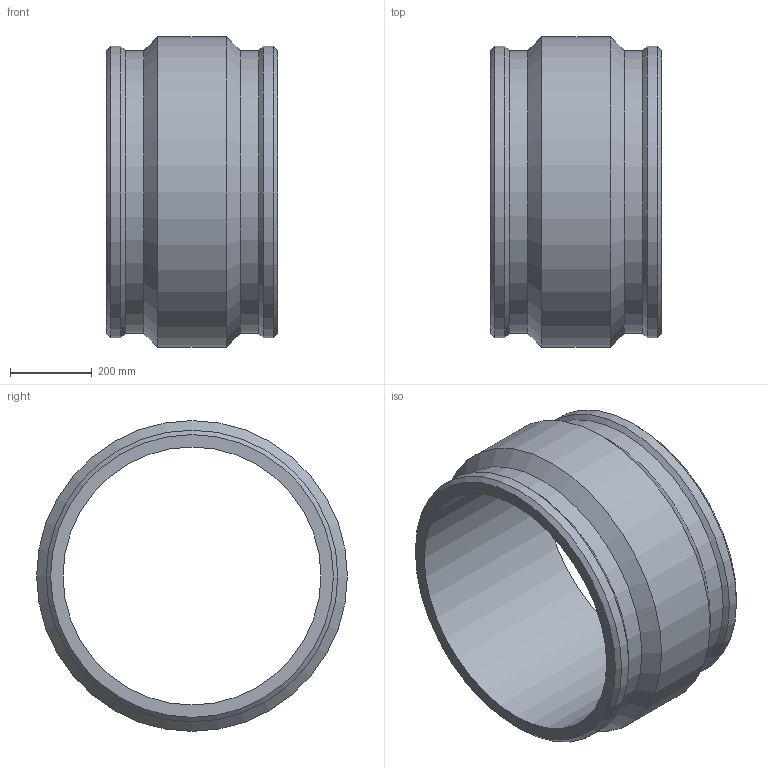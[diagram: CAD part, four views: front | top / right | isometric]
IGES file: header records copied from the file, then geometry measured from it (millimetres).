
Global section: file name: 490103630.ipt; native system: Autodesk Inventor 2015; preprocessor: unknown; author: KIM; date: 20171106.093526; units: millimetre
Bounding box: 418 x 759 x 759 mm (x, y, z)
Volume: 43579910.3 mm3; surface area: 2012652.1 mm2
Topology: 1 solids, 1 shells, 28 faces, 52 edges, 30 vertices
Faces by surface type: cylinder 11, plane 8, cone 6, revolution 3
Full cylindrical faces by diameter (mm): 4 x2, 690.64 x2, 712 x2, 759 x1
